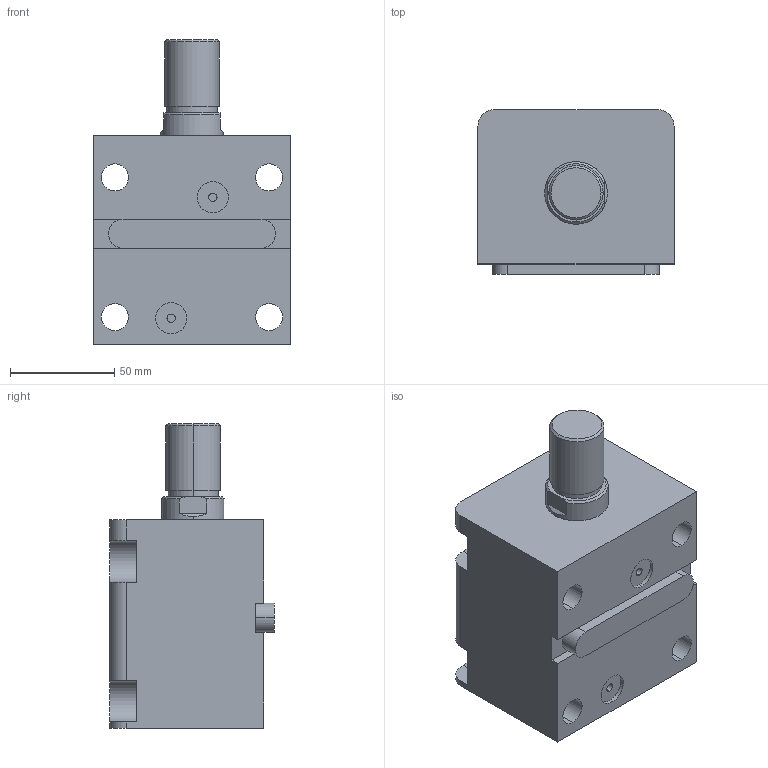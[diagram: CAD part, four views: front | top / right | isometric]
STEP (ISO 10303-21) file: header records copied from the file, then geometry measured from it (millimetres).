
FILE_DESCRIPTION (( 'STEP AP203' ), '1' );
FILE_NAME ('HTB-LAM50-40W.STEP', '2023-03-20T00:53:16', ( '微软用户' ), ( '微软中国' ), 'SwSTEP 2.0', 'SolidWorks 2012', '' );
FILE_SCHEMA (( 'CONFIG_CONTROL_DESIGN' ));
Length unit declared in the file: millimetre
Products named in the file (4): HTB-LAM50-40W; HTB-LAM50-40W活塞杆; HTB-LAM50-40掛极; HTB-LWM50-瑩
Assembly tree (3 placements, depth 2):
  HTB-LAM50-40W
    HTB-LAM50-40掛极
    HTB-LAM50-40W活塞杆
    HTB-LWM50-瑩
Bounding box: 94 x 79 x 146 mm (x, y, z)
Volume: 621882.7 mm3; surface area: 94586.2 mm2
Topology: 3 solids, 3 shells, 90 faces, 219 edges, 144 vertices
Faces by surface type: cylinder 41, plane 41, cone 4, torus 4
Entity records: 3107 total; most frequent: DIRECTION 497, CARTESIAN_POINT 487, ORIENTED_EDGE 438, EDGE_CURVE 219, AXIS2_PLACEMENT_3D 190, VERTEX_POINT 144, VECTOR 117, LINE 117
